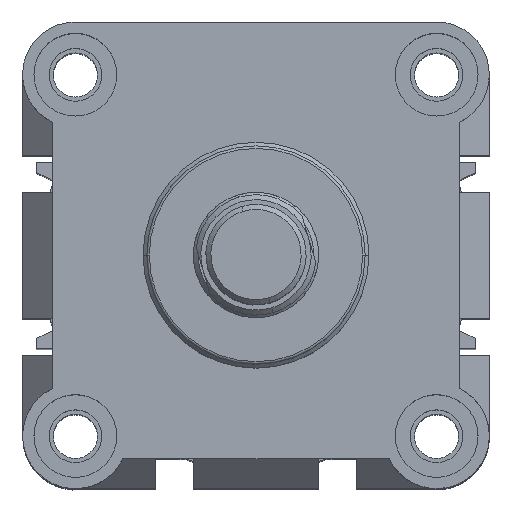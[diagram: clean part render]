
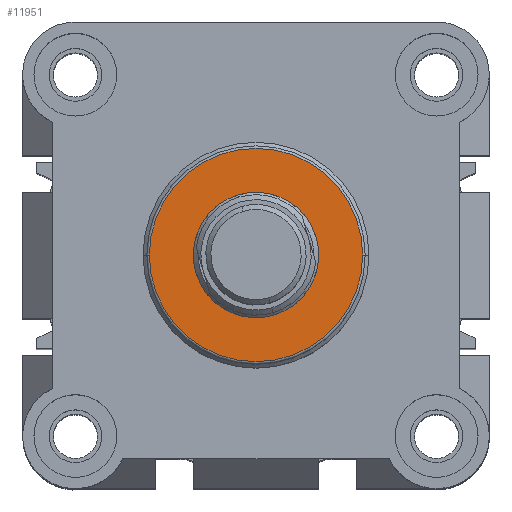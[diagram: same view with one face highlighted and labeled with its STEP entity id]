
A CAD part, top view. The second image highlights one B-rep face of the part: STEP entity #11951.
In plain terms, the highlighted planar face has unit normal (0, 0, 1) as drawn and (0, 0, -1) by its records, which use the part's own axes.
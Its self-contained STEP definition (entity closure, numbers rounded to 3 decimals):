
#304 = DIRECTION ( 'NONE',  ( 0., 0., -1. ) ) ;
#1708 = ORIENTED_EDGE ( 'NONE', *, *, #4799, .T. ) ;
#3089 = EDGE_CURVE ( 'NONE', #10657, #16838, #7638, .T. ) ;
#3314 = AXIS2_PLACEMENT_3D ( 'NONE', #13748, #13808, #13688 ) ;
#3438 = DIRECTION ( 'NONE',  ( 0., 0., -1. ) ) ;
#3532 = AXIS2_PLACEMENT_3D ( 'NONE', #15577, #304, #8023 ) ;
#3590 = CARTESIAN_POINT ( 'NONE',  ( 25.25, 46.5, -34.7 ) ) ;
#4664 = VERTEX_POINT ( 'NONE', #17546 ) ;
#4799 = EDGE_CURVE ( 'NONE', #18916, #4664, #11098, .T. ) ;
#5240 = DIRECTION ( 'NONE',  ( -1., 0., 0. ) ) ;
#5399 = EDGE_LOOP ( 'NONE', ( #14094, #17529 ) ) ;
#6125 = EDGE_CURVE ( 'NONE', #4664, #18916, #18760, .T. ) ;
#7010 = DIRECTION ( 'NONE',  ( -1., 0., 0. ) ) ;
#7030 = CARTESIAN_POINT ( 'NONE',  ( 46.5, 46.5, -34.7 ) ) ;
#7206 = EDGE_LOOP ( 'NONE', ( #1708, #9415 ) ) ;
#7496 = CARTESIAN_POINT ( 'NONE',  ( 46.5, 46.5, -34.7 ) ) ;
#7638 = CIRCLE ( 'NONE', #7834, 12.5 ) ;
#7834 = AXIS2_PLACEMENT_3D ( 'NONE', #7030, #10106, #5240 ) ;
#8023 = DIRECTION ( 'NONE',  ( -1., 0., 0. ) ) ;
#9415 = ORIENTED_EDGE ( 'NONE', *, *, #6125, .T. ) ;
#10106 = DIRECTION ( 'NONE',  ( 0., 0., -1. ) ) ;
#10657 = VERTEX_POINT ( 'NONE', #15977 ) ;
#11098 = CIRCLE ( 'NONE', #3314, 21.25 ) ;
#11951 = ADVANCED_FACE ( 'NONE', ( #17694, #12007 ), #12683, .T. ) ;
#11974 = CIRCLE ( 'NONE', #17418, 12.5 ) ;
#12007 = FACE_OUTER_BOUND ( 'NONE', #7206, .T. ) ;
#12149 = EDGE_CURVE ( 'NONE', #16838, #10657, #11974, .T. ) ;
#12683 = PLANE ( 'NONE',  #3532 ) ;
#13688 = DIRECTION ( 'NONE',  ( -1., 0., 0. ) ) ;
#13748 = CARTESIAN_POINT ( 'NONE',  ( 46.5, 46.5, -34.7 ) ) ;
#13808 = DIRECTION ( 'NONE',  ( 0., 0., -1. ) ) ;
#14094 = ORIENTED_EDGE ( 'NONE', *, *, #12149, .F. ) ;
#14301 = AXIS2_PLACEMENT_3D ( 'NONE', #7496, #19250, #7010 ) ;
#15344 = CARTESIAN_POINT ( 'NONE',  ( 34., 46.5, -34.7 ) ) ;
#15460 = CARTESIAN_POINT ( 'NONE',  ( 46.5, 46.5, -34.7 ) ) ;
#15577 = CARTESIAN_POINT ( 'NONE',  ( 46.5, 46.5, -34.7 ) ) ;
#15977 = CARTESIAN_POINT ( 'NONE',  ( 59., 46.5, -34.7 ) ) ;
#16838 = VERTEX_POINT ( 'NONE', #15344 ) ;
#17418 = AXIS2_PLACEMENT_3D ( 'NONE', #15460, #3438, #18734 ) ;
#17529 = ORIENTED_EDGE ( 'NONE', *, *, #3089, .F. ) ;
#17546 = CARTESIAN_POINT ( 'NONE',  ( 67.75, 46.5, -34.7 ) ) ;
#17694 = FACE_BOUND ( 'NONE', #5399, .T. ) ;
#18734 = DIRECTION ( 'NONE',  ( -1., 0., 0. ) ) ;
#18760 = CIRCLE ( 'NONE', #14301, 21.25 ) ;
#18916 = VERTEX_POINT ( 'NONE', #3590 ) ;
#19250 = DIRECTION ( 'NONE',  ( 0., 0., -1. ) ) ;
